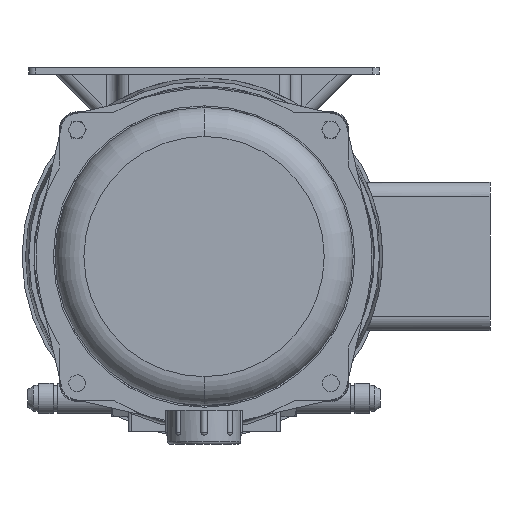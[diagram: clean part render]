
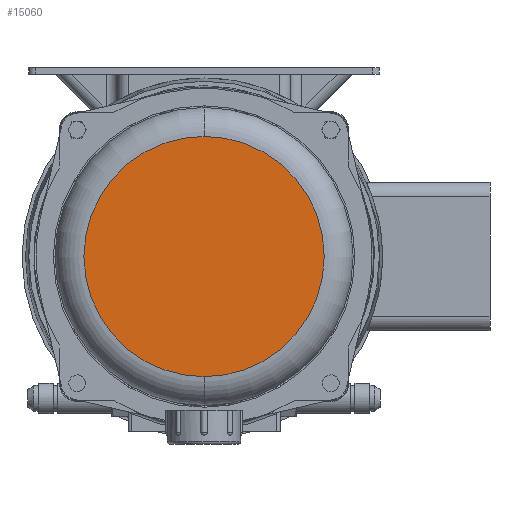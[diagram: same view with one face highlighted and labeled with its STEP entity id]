
A CAD part, front view. The second image highlights one B-rep face of the part: STEP entity #15060.
In plain terms, the highlighted planar face has unit normal (0, -1, 0).
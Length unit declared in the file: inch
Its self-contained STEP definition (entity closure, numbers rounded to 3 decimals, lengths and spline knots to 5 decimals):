
#14847=CARTESIAN_POINT('',(0.,-13.005,0.));
#14848=DIRECTION('',(0.,-1.,0.));
#14849=DIRECTION('',(0.,0.,-1.));
#14850=AXIS2_PLACEMENT_3D('',#14847,#14848,#14849);
#14862=CARTESIAN_POINT('',(0.,-13.005,0.));
#14863=DIRECTION('',(0.,1.,0.));
#14864=DIRECTION('',(0.,0.,-1.));
#14865=AXIS2_PLACEMENT_3D('',#14862,#14863,#14864);
#14935=CARTESIAN_POINT('',(0.,-13.005,-2.2275));
#14937=VERTEX_POINT('',#14935);
#14939=CARTESIAN_POINT('',(0.,-13.005,2.2275));
#14940=VERTEX_POINT('',#14939);
#15049=CARTESIAN_POINT('',(0.,-13.005,0.));
#15050=DIRECTION('',(0.,-1.,0.));
#15051=DIRECTION('',(0.,0.,1.));
#15052=AXIS2_PLACEMENT_3D('',#15049,#15050,#15051);
#15053=PLANE('',#15052);
#15055=ORIENTED_EDGE('',*,*,#15054,.F.);
#15057=ORIENTED_EDGE('',*,*,#15056,.T.);
#15058=EDGE_LOOP('',(#15055,#15057));
#15059=FACE_OUTER_BOUND('',#15058,.F.);
#15060=ADVANCED_FACE('',(#15059),#15053,.T.);
#14851=CIRCLE('',#14850,2.2275);
#14866=CIRCLE('',#14865,2.2275);
#15054=EDGE_CURVE('',#14937,#14940,#14851,.T.);
#15056=EDGE_CURVE('',#14937,#14940,#14866,.T.);
